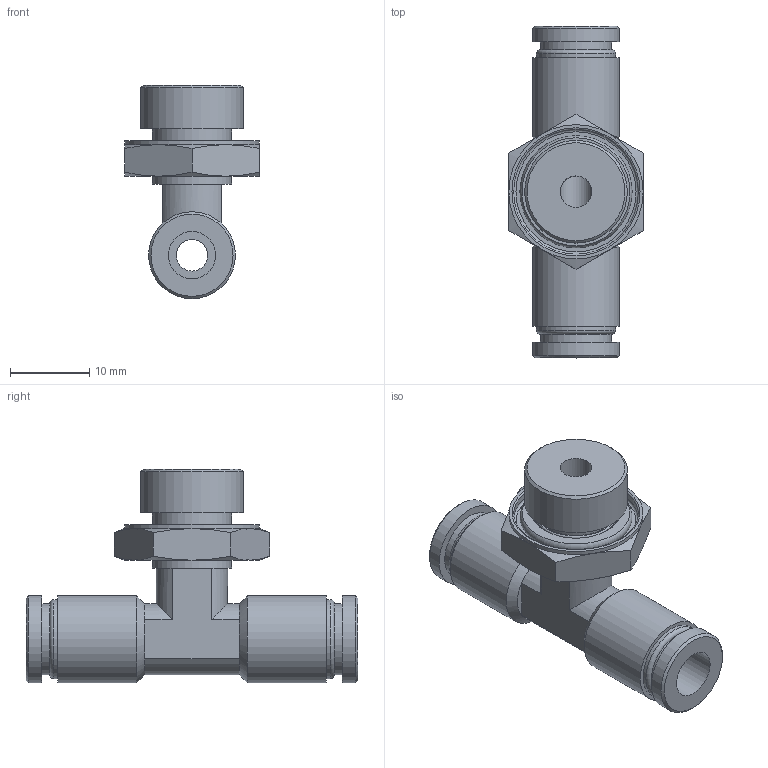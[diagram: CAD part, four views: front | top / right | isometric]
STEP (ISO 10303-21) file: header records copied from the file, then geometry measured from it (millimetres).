
FILE_DESCRIPTION(/* description */ (''),/* implementation_level */ '2;1');
FILE_NAME(/* name */ 'LXH38 0006 B2.stp',/* time_stamp */ '2026-04-24T18:59:41+02:00',/* author */ ('freju'),/* organization */ (''),/* preprocessor_version */ 'ST-DEVELOPER v20.1',/* originating_system */ 'Autodesk Inventor 2026',/* authorisation */ '');
FILE_SCHEMA (('AUTOMOTIVE_DESIGN { 1 0 10303 214 3 1 1 }'));
Length unit declared in the file: millimetre
Products named in the file (4): LXH38 0006 B2; LXH38 0006 B2_1; O-Ring; ISO 3601-1 - A 0106 G
Assembly tree (3 placements, depth 3):
  LXH38 0006 B2
    LXH38 0006 B2_1
    O-Ring
      ISO 3601-1 - A 0106 G
Bounding box: 17 x 42 x 27 mm (x, y, z)
Volume: 4408.3 mm3; surface area: 4078.1 mm2
Topology: 2 solids, 2 shells, 77 faces, 162 edges, 100 vertices
Faces by surface type: plane 29, cylinder 23, cone 17, torus 8
Full cylindrical faces by diameter (mm): 4 x2, 6 x2, 9 x2, 10 x4, 10.6 x1, 11 x4, 13 x1, 15.8 x1, 17 x1
Entity records: 2206 total; most frequent: DIRECTION 398, CARTESIAN_POINT 394, ORIENTED_EDGE 324, AXIS2_PLACEMENT_3D 176, EDGE_CURVE 162, VERTEX_POINT 100, EDGE_LOOP 94, CIRCLE 88
